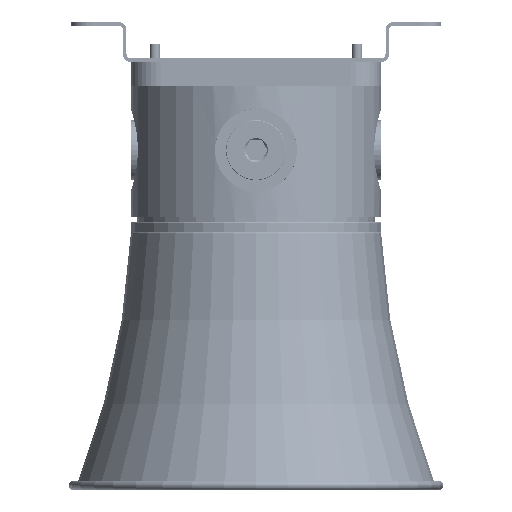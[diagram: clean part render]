
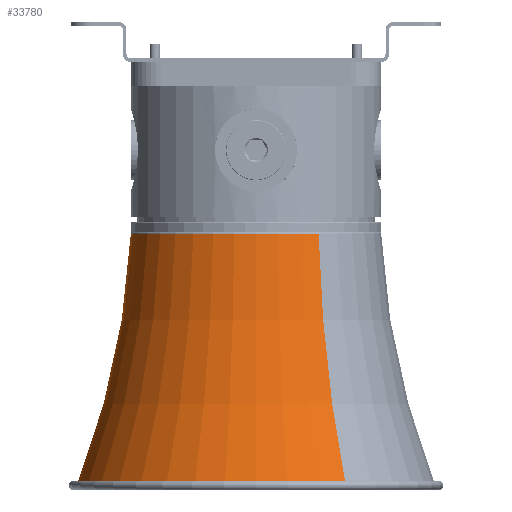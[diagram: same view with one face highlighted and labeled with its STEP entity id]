
A CAD part, front view. The second image highlights one B-rep face of the part: STEP entity #33780.
In plain terms, the highlighted toroidal (fillet/blend) face has major radius 462.029 mm and minor radius 400 mm.
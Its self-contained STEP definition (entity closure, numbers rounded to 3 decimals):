
#32803=CARTESIAN_POINT('',(0.,462.029,19.404));
#32804=DIRECTION('',(-1.,0.,0.));
#32805=DIRECTION('',(0.,-0.931,-0.366));
#32806=AXIS2_PLACEMENT_3D('',#32803,#32804,#32805);
#32813=CARTESIAN_POINT('',(0.,-462.029,
19.404));
#32814=DIRECTION('',(1.,0.,0.));
#32815=DIRECTION('',(0.,0.931,-0.366));
#32816=AXIS2_PLACEMENT_3D('',#32813,#32814,#32815);
#33155=CARTESIAN_POINT('',(0.,0.,-127.049));
#33156=DIRECTION('',(0.,0.,1.));
#33157=DIRECTION('',(0.,1.,0.));
#33158=AXIS2_PLACEMENT_3D('',#33155,#33156,#33157);
#33165=CARTESIAN_POINT('',(0.,0.,-0.76));
#33166=DIRECTION('',(0.,0.,1.));
#33167=DIRECTION('',(0.,1.,0.));
#33168=AXIS2_PLACEMENT_3D('',#33165,#33166,#33167);
#33176=CARTESIAN_POINT('',(0.,89.804,-127.049));
#33178=VERTEX_POINT('',#33176);
#33180=CARTESIAN_POINT('',(0.,-89.804,
-127.049));
#33182=VERTEX_POINT('',#33180);
#33259=CARTESIAN_POINT('',(0.,62.538,
-0.76));
#33260=CARTESIAN_POINT('',(0.,-62.538,
-0.76));
#33261=VERTEX_POINT('',#33259);
#33262=VERTEX_POINT('',#33260);
#33768=CARTESIAN_POINT('',(0.,0.,19.404));
#33769=DIRECTION('',(0.,0.,1.));
#33770=DIRECTION('',(0.,1.,0.));
#33771=AXIS2_PLACEMENT_3D('',#33768,#33769,#33770);
#33772=TOROIDAL_SURFACE('',#33771,462.029,400.);
#33774=ORIENTED_EDGE('',*,*,#33773,.T.);
#33775=ORIENTED_EDGE('',*,*,#33282,.F.);
#33776=ORIENTED_EDGE('',*,*,#33735,.F.);
#33777=ORIENTED_EDGE('',*,*,#33278,.T.);
#33778=EDGE_LOOP('',(#33774,#33775,#33776,#33777));
#33779=FACE_OUTER_BOUND('',#33778,.F.);
#33780=ADVANCED_FACE('',(#33779),#33772,.F.);
#32807=CIRCLE('',#32806,400.);
#32817=CIRCLE('',#32816,400.);
#33159=CIRCLE('',#33158,89.804);
#33169=CIRCLE('',#33168,62.538);
#33278=EDGE_CURVE('',#33178,#33261,#32807,.T.);
#33282=EDGE_CURVE('',#33182,#33262,#32817,.T.);
#33735=EDGE_CURVE('',#33178,#33182,#33159,.T.);
#33773=EDGE_CURVE('',#33261,#33262,#33169,.T.);
